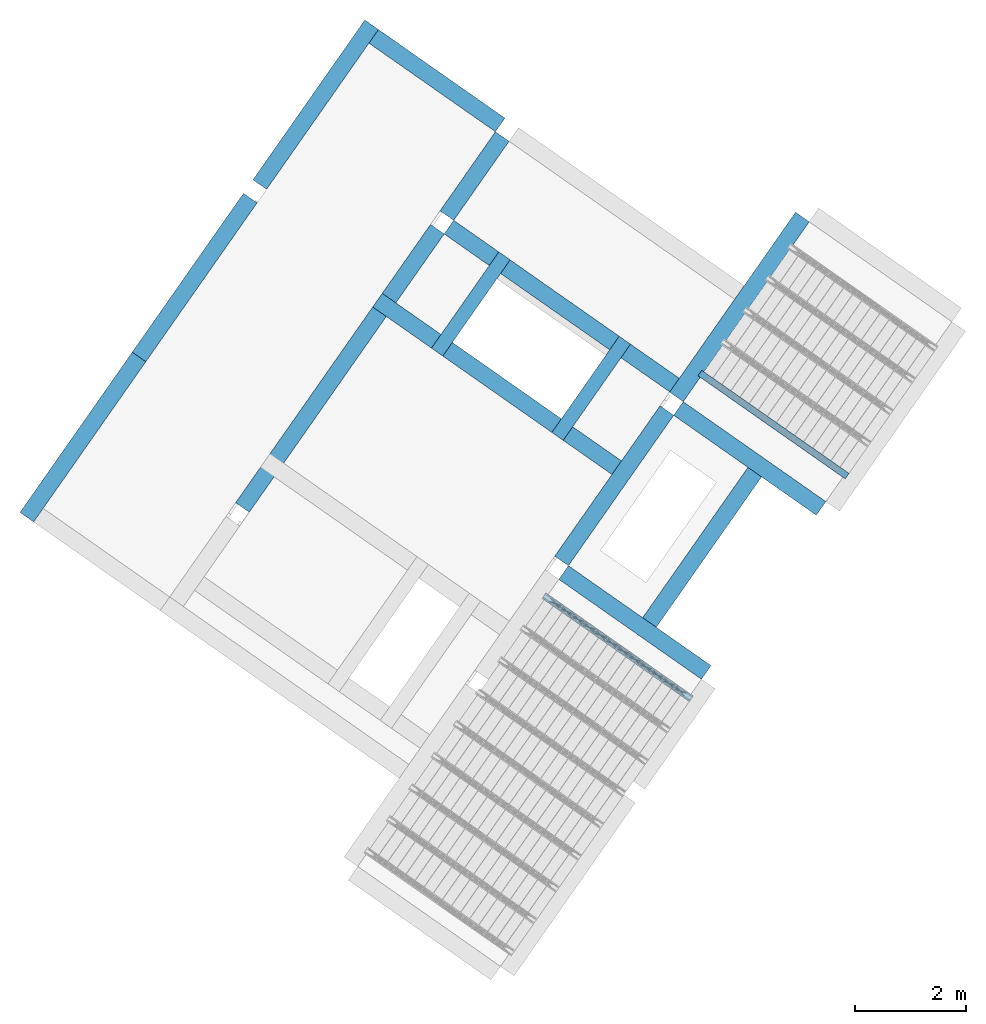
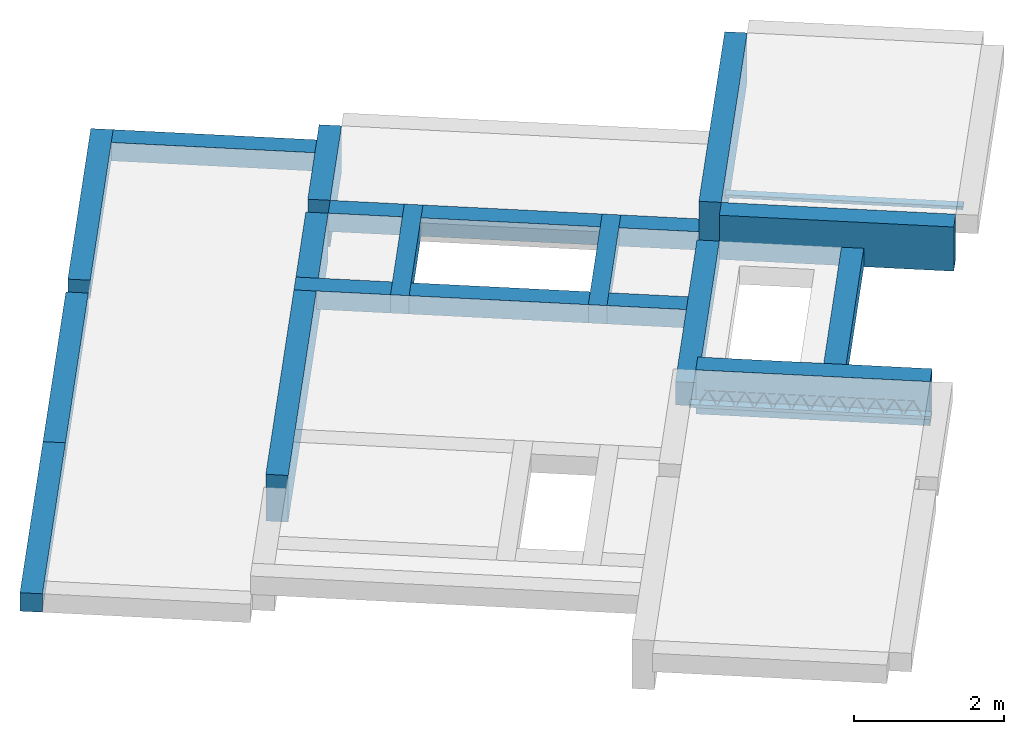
# One storey, part 18 of 46: 17 beams.
"""IFC2X3 building model written with IfcOpenShell, lengths in metres."""

from ifc_helpers import new_model, entity, si_unit, converted_unit, derived_unit, direction, frame, frame_2d, origin, origin_2d_with_axis, place, context, subcontext, project, spatial, rectangle, circle, extrude, material, type_object, element, save


model = new_model("IFC2X3")

# Units and contexts
model_context = context("Model", 3, precision=1e-05, world=origin(), true_north=direction((6.123031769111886e-17, 1.0)))
body_context = subcontext(model_context, "Body", "Model", "MODEL_VIEW")
ifc_project = project(units=[si_unit("LENGTHUNIT", "METRE"), si_unit("AREAUNIT", "SQUARE_METRE"), si_unit("VOLUMEUNIT", "CUBIC_METRE"), converted_unit("PLANEANGLEUNIT", "DEGREE", entity("IfcPlaneAngleMeasure", 0.017453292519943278), si_unit("PLANEANGLEUNIT", "RADIAN"), dimensions=[0, 0, 0, 0, 0, 0, 0]), si_unit("MASSUNIT", "GRAM", prefix="KILO"), derived_unit("MASSDENSITYUNIT", [(si_unit("MASSUNIT", "GRAM", prefix="KILO"), 1), (si_unit("LENGTHUNIT", "METRE"), -3)]), derived_unit("IONCONCENTRATIONUNIT", [(si_unit("MASSUNIT", "GRAM", prefix="KILO"), 1), (si_unit("LENGTHUNIT", "METRE"), -3)]), derived_unit("MOMENTOFINERTIAUNIT", [(si_unit("LENGTHUNIT", "METRE"), 4)]), si_unit("TIMEUNIT", "SECOND"), si_unit("FREQUENCYUNIT", "HERTZ"), si_unit("THERMODYNAMICTEMPERATUREUNIT", "DEGREE_CELSIUS"), derived_unit("THERMALTRANSMITTANCEUNIT", [(si_unit("MASSUNIT", "GRAM", prefix="KILO"), 1), (si_unit("THERMODYNAMICTEMPERATUREUNIT", "KELVIN"), -1), (si_unit("TIMEUNIT", "SECOND"), -3)]), derived_unit("THERMALCONDUCTANCEUNIT", [(si_unit("MASSUNIT", "GRAM", prefix="KILO"), 1), (si_unit("THERMODYNAMICTEMPERATUREUNIT", "KELVIN"), -1), (si_unit("TIMEUNIT", "SECOND"), -3), (si_unit("LENGTHUNIT", "METRE"), 1)]), derived_unit("VOLUMETRICFLOWRATEUNIT", [(si_unit("LENGTHUNIT", "METRE", prefix="DECI"), 3), (si_unit("TIMEUNIT", "SECOND"), -1)]), derived_unit("MASSFLOWRATEUNIT", [(si_unit("MASSUNIT", "GRAM", prefix="KILO"), 1), (si_unit("TIMEUNIT", "SECOND"), -1)]), derived_unit("ROTATIONALFREQUENCYUNIT", [(si_unit("TIMEUNIT", "SECOND"), -1)]), si_unit("ELECTRICCURRENTUNIT", "AMPERE"), si_unit("ELECTRICVOLTAGEUNIT", "VOLT"), si_unit("POWERUNIT", "WATT"), si_unit("FORCEUNIT", "NEWTON", prefix="KILO"), si_unit("ILLUMINANCEUNIT", "LUX"), si_unit("LUMINOUSFLUXUNIT", "LUMEN"), si_unit("LUMINOUSINTENSITYUNIT", "CANDELA"), si_unit("ENERGYUNIT", "JOULE"), derived_unit("USERDEFINED", [(si_unit("MASSUNIT", "GRAM", prefix="KILO"), -1), (si_unit("LENGTHUNIT", "METRE"), -2), (si_unit("TIMEUNIT", "SECOND"), 3), (si_unit("LUMINOUSFLUXUNIT", "LUMEN"), 1)]), derived_unit("USERDEFINED", [(si_unit("MASSUNIT", "GRAM", prefix="KILO"), 1), (si_unit("TIMEUNIT", "SECOND"), -3), (si_unit("LENGTHUNIT", "METRE"), 3), (si_unit("ELECTRICCURRENTUNIT", "AMPERE"), -2)]), derived_unit("SOUNDPOWERUNIT", [(si_unit("MASSUNIT", "GRAM", prefix="KILO"), 1), (si_unit("TIMEUNIT", "SECOND"), -3), (si_unit("LENGTHUNIT", "METRE"), 2)]), derived_unit("SOUNDPRESSUREUNIT", [(si_unit("MASSUNIT", "GRAM", prefix="KILO"), 1), (si_unit("LENGTHUNIT", "METRE"), -1), (si_unit("TIMEUNIT", "SECOND"), -2)]), derived_unit("LINEARVELOCITYUNIT", [(si_unit("LENGTHUNIT", "METRE"), 1), (si_unit("TIMEUNIT", "SECOND"), -1)]), si_unit("PRESSUREUNIT", "PASCAL"), derived_unit("USERDEFINED", [(si_unit("MASSUNIT", "GRAM", prefix="KILO"), 1), (si_unit("LENGTHUNIT", "METRE"), -2), (si_unit("TIMEUNIT", "SECOND"), -2)]), derived_unit("LINEARFORCEUNIT", [(si_unit("MASSUNIT", "GRAM", prefix="KILO"), 1), (si_unit("TIMEUNIT", "SECOND"), -2)]), derived_unit("PLANARFORCEUNIT", [(si_unit("MASSUNIT", "GRAM", prefix="KILO"), 1), (si_unit("LENGTHUNIT", "METRE"), -1), (si_unit("TIMEUNIT", "SECOND"), -2)]), derived_unit("SPECIFICHEATCAPACITYUNIT", [(si_unit("THERMODYNAMICTEMPERATUREUNIT", "KELVIN"), -1), (si_unit("LENGTHUNIT", "METRE"), 2), (si_unit("TIMEUNIT", "SECOND"), -2)]), derived_unit("HEATFLUXDENSITYUNIT", [(si_unit("MASSUNIT", "GRAM", prefix="KILO"), 1), (si_unit("TIMEUNIT", "SECOND"), -3)]), derived_unit("HEATINGVALUEUNIT", [(si_unit("LENGTHUNIT", "METRE"), 2), (si_unit("TIMEUNIT", "SECOND"), -2)]), derived_unit("VAPORPERMEABILITYUNIT", [(si_unit("LENGTHUNIT", "METRE"), -1), (si_unit("TIMEUNIT", "SECOND"), 1)]), derived_unit("DYNAMICVISCOSITYUNIT", [(si_unit("MASSUNIT", "GRAM", prefix="KILO"), 1), (si_unit("TIMEUNIT", "SECOND"), -1), (si_unit("LENGTHUNIT", "METRE"), -1)]), derived_unit("THERMALEXPANSIONCOEFFICIENTUNIT", [(si_unit("THERMODYNAMICTEMPERATUREUNIT", "KELVIN"), -1)]), derived_unit("MODULUSOFELASTICITYUNIT", [(si_unit("MASSUNIT", "GRAM", prefix="KILO"), 1), (si_unit("LENGTHUNIT", "METRE"), -1), (si_unit("TIMEUNIT", "SECOND"), -2)]), derived_unit("ISOTHERMALMOISTURECAPACITYUNIT", [(si_unit("MASSUNIT", "GRAM", prefix="KILO"), -1), (si_unit("LENGTHUNIT", "METRE"), 3)]), derived_unit("MOISTUREDIFFUSIVITYUNIT", [(si_unit("TIMEUNIT", "SECOND"), -1), (si_unit("LENGTHUNIT", "METRE"), 2)]), derived_unit("MASSPERLENGTHUNIT", [(si_unit("MASSUNIT", "GRAM", prefix="KILO"), 1), (si_unit("LENGTHUNIT", "METRE"), -1)]), derived_unit("THERMALRESISTANCEUNIT", [(si_unit("MASSUNIT", "GRAM", prefix="KILO"), -1), (si_unit("TIMEUNIT", "SECOND"), 3), (si_unit("THERMODYNAMICTEMPERATUREUNIT", "KELVIN"), 1)]), derived_unit("ACCELERATIONUNIT", [(si_unit("LENGTHUNIT", "METRE"), 1), (si_unit("TIMEUNIT", "SECOND"), -2)]), derived_unit("ANGULARVELOCITYUNIT", [(si_unit("TIMEUNIT", "SECOND"), -1), (si_unit("PLANEANGLEUNIT", "RADIAN"), 1)]), derived_unit("LINEARSTIFFNESSUNIT", [(si_unit("MASSUNIT", "GRAM", prefix="KILO"), 1), (si_unit("TIMEUNIT", "SECOND"), -2)]), derived_unit("WARPINGCONSTANTUNIT", [(si_unit("LENGTHUNIT", "METRE"), 6)]), derived_unit("LINEARMOMENTUNIT", [(si_unit("MASSUNIT", "GRAM", prefix="KILO"), 1), (si_unit("LENGTHUNIT", "METRE"), 1), (si_unit("TIMEUNIT", "SECOND"), -2)]), derived_unit("TORQUEUNIT", [(si_unit("MASSUNIT", "GRAM", prefix="KILO"), 1), (si_unit("LENGTHUNIT", "METRE"), 2), (si_unit("TIMEUNIT", "SECOND"), -2)])], contexts=[model_context])

# Site, building, storey
site_placement = place(None, origin())
site = spatial("IfcSite", under=ifc_project, at=site_placement, Name="Default", CompositionType="ELEMENT")
building_placement = place(site_placement, origin())
building = spatial("IfcBuilding", under=site, at=building_placement, CompositionType="ELEMENT")
storey_placement = place(building_placement, frame((0.0, 0.0, 99.52000000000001)))
storey = spatial("IfcBuildingStorey", under=building, at=storey_placement, Name="F1", CompositionType="ELEMENT", Elevation=99.52000000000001)

# Beams
beam_type = type_object("IfcBeamType", Name="Vigueta 9 (Paño 4) (Mf = 14.29)", PredefinedType="JOIST")
beam_1_placement = place(storey_placement, origin())
element("IfcBeam", 1, at=beam_1_placement, inside=storey, type_object=beam_type, Name="Vigueta 9 (Paño 4) (Mf = 14.29)", ObjectType="Mf = 14.29", context=body_context, shape_type="SweptSolid", body=[
    extrude(rectangle(XDim=3.2399999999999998, YDim=0.11999999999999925, at=frame_2d((-6.661338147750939e-16, 0.0), x_axis=(1.0, 0.0))), frame((8.99447357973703, -0.13274202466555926, 0.2000000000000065), z_axis=(0.0, 0.0, 1.0), x_axis=(0.8191520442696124, -0.5735764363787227, 0.0)), (0.0, 0.0, 1.0), 0.04999999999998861),
    extrude(circle(Radius=0.0025, at=origin_2d_with_axis()), frame((7.666458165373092, 0.7531964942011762, 0.22500000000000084), z_axis=(0.8191520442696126, -0.5735764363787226, 0.0), x_axis=(-0.5735764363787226, -0.8191520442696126, 0.0)), (0.0, 0.0, 1.0), 3.191999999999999),
    extrude(circle(Radius=0.0025, at=origin_2d_with_axis()), frame((7.82718191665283, 0.6846043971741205, 0.4500000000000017), z_axis=(0.8191520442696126, -0.5735764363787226, 0.0), x_axis=(-0.5735764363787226, -0.8191520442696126, 0.0)), (0.0, 0.0, 1.0), 2.849999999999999),
    extrude(circle(Radius=0.0025, at=origin_2d_with_axis()), frame((10.202552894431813, -1.0225961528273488, 0.22500000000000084), z_axis=(-0.3145304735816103, 0.389334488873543, 0.8657304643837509), x_axis=(-0.7778747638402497, -0.6284193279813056, 0.0)), (0.0, 0.0, 1.0), 0.2598961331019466),
    extrude(circle(Radius=0.0025, at=origin_2d_with_axis()), frame((9.997764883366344, -0.8792020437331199, 0.22499999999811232), z_axis=(0.47343050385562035, -0.1624017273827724, 0.8657304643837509), x_axis=(-0.3244721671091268, -0.9458952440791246, 0.0)), (0.0, 0.0, 1.0), 0.25989613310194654),
    extrude(circle(Radius=0.0025, at=origin_2d_with_axis()), frame((9.99776488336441, -0.8792020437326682, 0.22500000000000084), z_axis=(-0.3145304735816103, 0.389334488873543, 0.8657304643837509), x_axis=(-0.7778747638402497, -0.6284193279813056, 0.0)), (0.0, 0.0, 1.0), 0.2598961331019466),
    extrude(circle(Radius=0.0025, at=origin_2d_with_axis()), frame((9.792976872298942, -0.7358079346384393, 0.22499999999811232), z_axis=(0.47343050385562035, -0.1624017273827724, 0.8657304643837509), x_axis=(-0.3244721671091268, -0.9458952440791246, 0.0)), (0.0, 0.0, 1.0), 0.25989613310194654),
    extrude(circle(Radius=0.0025, at=origin_2d_with_axis()), frame((9.792976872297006, -0.7358079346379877, 0.22500000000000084), z_axis=(-0.3145304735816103, 0.389334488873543, 0.8657304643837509), x_axis=(-0.7778747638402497, -0.6284193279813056, 0.0)), (0.0, 0.0, 1.0), 0.2598961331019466),
    extrude(circle(Radius=0.0025, at=origin_2d_with_axis()), frame((9.588188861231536, -0.5924138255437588, 0.22499999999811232), z_axis=(0.47343050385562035, -0.1624017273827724, 0.8657304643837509), x_axis=(-0.3244721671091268, -0.9458952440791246, 0.0)), (0.0, 0.0, 1.0), 0.25989613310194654),
    extrude(circle(Radius=0.0025, at=origin_2d_with_axis()), frame((9.588188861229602, -0.592413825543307, 0.22500000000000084), z_axis=(-0.3145304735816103, 0.389334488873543, 0.8657304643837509), x_axis=(-0.7778747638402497, -0.6284193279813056, 0.0)), (0.0, 0.0, 1.0), 0.2598961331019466),
    extrude(circle(Radius=0.0025, at=origin_2d_with_axis()), frame((9.383400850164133, -0.4490197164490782, 0.22499999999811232), z_axis=(0.47343050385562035, -0.1624017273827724, 0.8657304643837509), x_axis=(-0.3244721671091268, -0.9458952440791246, 0.0)), (0.0, 0.0, 1.0), 0.25989613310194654),
    extrude(circle(Radius=0.0025, at=origin_2d_with_axis()), frame((9.3834008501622, -0.4490197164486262, 0.22500000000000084), z_axis=(-0.3145304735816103, 0.389334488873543, 0.8657304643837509), x_axis=(-0.7778747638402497, -0.6284193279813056, 0.0)), (0.0, 0.0, 1.0), 0.2598961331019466),
    extrude(circle(Radius=0.0025, at=origin_2d_with_axis()), frame((9.178612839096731, -0.3056256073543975, 0.22499999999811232), z_axis=(0.47343050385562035, -0.1624017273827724, 0.8657304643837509), x_axis=(-0.3244721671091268, -0.9458952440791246, 0.0)), (0.0, 0.0, 1.0), 0.25989613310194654),
    extrude(circle(Radius=0.0025, at=origin_2d_with_axis()), frame((9.178612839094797, -0.3056256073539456, 0.22500000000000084), z_axis=(-0.3145304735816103, 0.389334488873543, 0.8657304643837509), x_axis=(-0.7778747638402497, -0.6284193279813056, 0.0)), (0.0, 0.0, 1.0), 0.2598961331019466),
    extrude(circle(Radius=0.0025, at=origin_2d_with_axis()), frame((8.973824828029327, -0.16223149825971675, 0.22499999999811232), z_axis=(0.47343050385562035, -0.1624017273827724, 0.8657304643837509), x_axis=(-0.3244721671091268, -0.9458952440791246, 0.0)), (0.0, 0.0, 1.0), 0.25989613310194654),
    extrude(circle(Radius=0.0025, at=origin_2d_with_axis()), frame((8.973824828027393, -0.16223149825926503, 0.22500000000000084), z_axis=(-0.3145304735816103, 0.389334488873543, 0.8657304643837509), x_axis=(-0.7778747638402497, -0.6284193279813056, 0.0)), (0.0, 0.0, 1.0), 0.2598961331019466),
    extrude(circle(Radius=0.0025, at=origin_2d_with_axis()), frame((8.769036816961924, -0.018837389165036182, 0.22499999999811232), z_axis=(0.47343050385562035, -0.1624017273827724, 0.8657304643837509), x_axis=(-0.3244721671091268, -0.9458952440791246, 0.0)), (0.0, 0.0, 1.0), 0.25989613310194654),
    extrude(circle(Radius=0.0025, at=origin_2d_with_axis()), frame((8.76903681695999, -0.01883738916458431, 0.22500000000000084), z_axis=(-0.3145304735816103, 0.389334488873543, 0.8657304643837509), x_axis=(-0.7778747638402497, -0.6284193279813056, 0.0)), (0.0, 0.0, 1.0), 0.2598961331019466),
    extrude(circle(Radius=0.0025, at=origin_2d_with_axis()), frame((8.56424880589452, 0.12455671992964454, 0.22499999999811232), z_axis=(0.47343050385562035, -0.1624017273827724, 0.8657304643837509), x_axis=(-0.3244721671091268, -0.9458952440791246, 0.0)), (0.0, 0.0, 1.0), 0.25989613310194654),
    extrude(circle(Radius=0.0025, at=origin_2d_with_axis()), frame((8.564248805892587, 0.12455671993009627, 0.22500000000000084), z_axis=(-0.3145304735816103, 0.389334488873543, 0.8657304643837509), x_axis=(-0.7778747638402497, -0.6284193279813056, 0.0)), (0.0, 0.0, 1.0), 0.2598961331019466),
    extrude(circle(Radius=0.0025, at=origin_2d_with_axis()), frame((8.359460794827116, 0.2679508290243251, 0.22499999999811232), z_axis=(0.47343050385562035, -0.1624017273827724, 0.8657304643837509), x_axis=(-0.3244721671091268, -0.9458952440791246, 0.0)), (0.0, 0.0, 1.0), 0.25989613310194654),
    extrude(circle(Radius=0.0025, at=origin_2d_with_axis()), frame((8.359460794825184, 0.26795082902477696, 0.22500000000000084), z_axis=(-0.3145304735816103, 0.389334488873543, 0.8657304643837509), x_axis=(-0.7778747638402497, -0.6284193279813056, 0.0)), (0.0, 0.0, 1.0), 0.2598961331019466),
    extrude(circle(Radius=0.0025, at=origin_2d_with_axis()), frame((8.154672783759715, 0.4113449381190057, 0.22499999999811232), z_axis=(0.47343050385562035, -0.1624017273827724, 0.8657304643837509), x_axis=(-0.3244721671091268, -0.9458952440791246, 0.0)), (0.0, 0.0, 1.0), 0.25989613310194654),
    extrude(circle(Radius=0.0025, at=origin_2d_with_axis()), frame((8.15467278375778, 0.41134493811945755, 0.22500000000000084), z_axis=(-0.3145304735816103, 0.389334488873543, 0.8657304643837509), x_axis=(-0.7778747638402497, -0.6284193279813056, 0.0)), (0.0, 0.0, 1.0), 0.2598961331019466),
    extrude(circle(Radius=0.0025, at=origin_2d_with_axis()), frame((7.949884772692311, 0.5547390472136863, 0.22499999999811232), z_axis=(0.47343050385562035, -0.1624017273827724, 0.8657304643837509), x_axis=(-0.3244721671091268, -0.9458952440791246, 0.0)), (0.0, 0.0, 1.0), 0.25989613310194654),
    extrude(circle(Radius=0.0025, at=origin_2d_with_axis()), frame((7.949884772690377, 0.5547390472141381, 0.22500000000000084), z_axis=(-0.3145304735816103, 0.389334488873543, 0.8657304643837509), x_axis=(-0.7778747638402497, -0.6284193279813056, 0.0)), (0.0, 0.0, 1.0), 0.2598961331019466),
    extrude(circle(Radius=0.0025, at=origin_2d_with_axis()), frame((7.745096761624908, 0.6981331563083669, 0.22499999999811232), z_axis=(0.47343050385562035, -0.1624017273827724, 0.8657304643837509), x_axis=(-0.3244721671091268, -0.9458952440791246, 0.0)), (0.0, 0.0, 1.0), 0.25989613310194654),
    extrude(circle(Radius=0.0025, at=origin_2d_with_axis()), frame((7.707755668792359, 0.8121754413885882, 0.22500000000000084), z_axis=(0.8191520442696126, -0.5735764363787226, 0.0), x_axis=(-0.5735764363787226, -0.8191520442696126, 0.0)), (0.0, 0.0, 1.0), 3.191999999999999),
    extrude(circle(Radius=0.0025, at=origin_2d_with_axis()), frame((10.24385039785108, -0.9636172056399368, 0.22500000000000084), z_axis=(-0.47343050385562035, 0.1624017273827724, 0.8657304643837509), x_axis=(-0.3244721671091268, -0.9458952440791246, 0.0)), (0.0, 0.0, 1.0), 0.25989613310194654),
    extrude(circle(Radius=0.0025, at=origin_2d_with_axis()), frame((10.039062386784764, -0.8202230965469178, 0.22499999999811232), z_axis=(0.3145304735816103, -0.389334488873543, 0.8657304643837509), x_axis=(-0.7778747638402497, -0.6284193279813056, 0.0)), (0.0, 0.0, 1.0), 0.2598961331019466),
    extrude(circle(Radius=0.0025, at=origin_2d_with_axis()), frame((10.039062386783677, -0.8202230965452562, 0.22500000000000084), z_axis=(-0.47343050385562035, 0.1624017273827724, 0.8657304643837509), x_axis=(-0.3244721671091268, -0.9458952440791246, 0.0)), (0.0, 0.0, 1.0), 0.25989613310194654),
    extrude(circle(Radius=0.0025, at=origin_2d_with_axis()), frame((9.834274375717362, -0.6768289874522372, 0.22499999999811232), z_axis=(0.3145304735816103, -0.389334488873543, 0.8657304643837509), x_axis=(-0.7778747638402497, -0.6284193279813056, 0.0)), (0.0, 0.0, 1.0), 0.2598961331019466),
    extrude(circle(Radius=0.0025, at=origin_2d_with_axis()), frame((9.834274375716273, -0.6768289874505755, 0.22500000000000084), z_axis=(-0.47343050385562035, 0.1624017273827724, 0.8657304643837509), x_axis=(-0.3244721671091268, -0.9458952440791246, 0.0)), (0.0, 0.0, 1.0), 0.25989613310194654),
    extrude(circle(Radius=0.0025, at=origin_2d_with_axis()), frame((9.629486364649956, -0.5334348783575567, 0.22499999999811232), z_axis=(0.3145304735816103, -0.389334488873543, 0.8657304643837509), x_axis=(-0.7778747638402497, -0.6284193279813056, 0.0)), (0.0, 0.0, 1.0), 0.2598961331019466),
    extrude(circle(Radius=0.0025, at=origin_2d_with_axis()), frame((9.62948636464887, -0.5334348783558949, 0.22500000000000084), z_axis=(-0.47343050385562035, 0.1624017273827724, 0.8657304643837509), x_axis=(-0.3244721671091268, -0.9458952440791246, 0.0)), (0.0, 0.0, 1.0), 0.25989613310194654),
    extrude(circle(Radius=0.0025, at=origin_2d_with_axis()), frame((9.424698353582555, -0.390040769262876, 0.22499999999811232), z_axis=(0.3145304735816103, -0.389334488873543, 0.8657304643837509), x_axis=(-0.7778747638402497, -0.6284193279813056, 0.0)), (0.0, 0.0, 1.0), 0.2598961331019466),
    extrude(circle(Radius=0.0025, at=origin_2d_with_axis()), frame((9.424698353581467, -0.3900407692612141, 0.22500000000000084), z_axis=(-0.47343050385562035, 0.1624017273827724, 0.8657304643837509), x_axis=(-0.3244721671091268, -0.9458952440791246, 0.0)), (0.0, 0.0, 1.0), 0.25989613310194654),
    extrude(circle(Radius=0.0025, at=origin_2d_with_axis()), frame((9.219910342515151, -0.24664666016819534, 0.22499999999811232), z_axis=(0.3145304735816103, -0.389334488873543, 0.8657304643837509), x_axis=(-0.7778747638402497, -0.6284193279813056, 0.0)), (0.0, 0.0, 1.0), 0.2598961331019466),
    extrude(circle(Radius=0.0025, at=origin_2d_with_axis()), frame((9.219910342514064, -0.24664666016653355, 0.22500000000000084), z_axis=(-0.47343050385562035, 0.1624017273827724, 0.8657304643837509), x_axis=(-0.3244721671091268, -0.9458952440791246, 0.0)), (0.0, 0.0, 1.0), 0.25989613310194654),
    extrude(circle(Radius=0.0025, at=origin_2d_with_axis()), frame((9.015122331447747, -0.10325255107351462, 0.22499999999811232), z_axis=(0.3145304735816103, -0.389334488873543, 0.8657304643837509), x_axis=(-0.7778747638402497, -0.6284193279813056, 0.0)), (0.0, 0.0, 1.0), 0.2598961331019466),
    extrude(circle(Radius=0.0025, at=origin_2d_with_axis()), frame((9.015122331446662, -0.10325255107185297, 0.22500000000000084), z_axis=(-0.47343050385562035, 0.1624017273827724, 0.8657304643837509), x_axis=(-0.3244721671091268, -0.9458952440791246, 0.0)), (0.0, 0.0, 1.0), 0.25989613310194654),
    extrude(circle(Radius=0.0025, at=origin_2d_with_axis()), frame((8.810334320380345, 0.04014155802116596, 0.22499999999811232), z_axis=(0.3145304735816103, -0.389334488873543, 0.8657304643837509), x_axis=(-0.7778747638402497, -0.6284193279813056, 0.0)), (0.0, 0.0, 1.0), 0.2598961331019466),
    extrude(circle(Radius=0.0025, at=origin_2d_with_axis()), frame((8.810334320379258, 0.040141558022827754, 0.22500000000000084), z_axis=(-0.47343050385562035, 0.1624017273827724, 0.8657304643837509), x_axis=(-0.3244721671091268, -0.9458952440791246, 0.0)), (0.0, 0.0, 1.0), 0.25989613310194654),
    extrude(circle(Radius=0.0025, at=origin_2d_with_axis()), frame((8.605546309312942, 0.18353566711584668, 0.22499999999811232), z_axis=(0.3145304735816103, -0.389334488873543, 0.8657304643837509), x_axis=(-0.7778747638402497, -0.6284193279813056, 0.0)), (0.0, 0.0, 1.0), 0.2598961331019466),
    extrude(circle(Radius=0.0025, at=origin_2d_with_axis()), frame((8.605546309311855, 0.18353566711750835, 0.22500000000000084), z_axis=(-0.47343050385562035, 0.1624017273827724, 0.8657304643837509), x_axis=(-0.3244721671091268, -0.9458952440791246, 0.0)), (0.0, 0.0, 1.0), 0.25989613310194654),
    extrude(circle(Radius=0.0025, at=origin_2d_with_axis()), frame((8.400758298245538, 0.32692977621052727, 0.22499999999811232), z_axis=(0.3145304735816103, -0.389334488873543, 0.8657304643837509), x_axis=(-0.7778747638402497, -0.6284193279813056, 0.0)), (0.0, 0.0, 1.0), 0.2598961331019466),
    extrude(circle(Radius=0.0025, at=origin_2d_with_axis()), frame((8.400758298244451, 0.32692977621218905, 0.22500000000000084), z_axis=(-0.47343050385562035, 0.1624017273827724, 0.8657304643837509), x_axis=(-0.3244721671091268, -0.9458952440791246, 0.0)), (0.0, 0.0, 1.0), 0.25989613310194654),
    extrude(circle(Radius=0.0025, at=origin_2d_with_axis()), frame((8.195970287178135, 0.47032388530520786, 0.22499999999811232), z_axis=(0.3145304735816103, -0.389334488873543, 0.8657304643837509), x_axis=(-0.7778747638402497, -0.6284193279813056, 0.0)), (0.0, 0.0, 1.0), 0.2598961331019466),
    extrude(circle(Radius=0.0025, at=origin_2d_with_axis()), frame((8.195970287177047, 0.47032388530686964, 0.22500000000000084), z_axis=(-0.47343050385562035, 0.1624017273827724, 0.8657304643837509), x_axis=(-0.3244721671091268, -0.9458952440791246, 0.0)), (0.0, 0.0, 1.0), 0.25989613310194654),
    extrude(circle(Radius=0.0025, at=origin_2d_with_axis()), frame((7.991182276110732, 0.6137179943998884, 0.22499999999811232), z_axis=(0.3145304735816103, -0.389334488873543, 0.8657304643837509), x_axis=(-0.7778747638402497, -0.6284193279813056, 0.0)), (0.0, 0.0, 1.0), 0.2598961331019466),
    extrude(circle(Radius=0.0025, at=origin_2d_with_axis()), frame((7.991182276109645, 0.6137179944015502, 0.22500000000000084), z_axis=(-0.47343050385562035, 0.1624017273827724, 0.8657304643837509), x_axis=(-0.3244721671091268, -0.9458952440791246, 0.0)), (0.0, 0.0, 1.0), 0.25989613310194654),
    extrude(circle(Radius=0.0025, at=origin_2d_with_axis()), frame((7.786394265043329, 0.757112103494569, 0.22499999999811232), z_axis=(0.3145304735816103, -0.389334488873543, 0.8657304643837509), x_axis=(-0.7778747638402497, -0.6284193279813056, 0.0)), (0.0, 0.0, 1.0), 0.2598961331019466),
])
ifc_material = material(Name="Hormigón armado")
beam_2_placement = place(storey_placement, origin())
element("IfcBeam", 2, at=beam_2_placement, inside=storey, material=ifc_material, Name="238196", context=body_context, shape_type="SweptSolid", body=[
    extrude(rectangle(XDim=0.04999999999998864, YDim=0.12000000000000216, at=origin_2d_with_axis()), frame((10.477971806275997, 4.810296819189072, 0.22500000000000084), z_axis=(0.8191520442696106, -0.5735764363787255, 0.0), x_axis=(0.0, 0.0, -1.0)), (0.0, 0.0, 1.0), 3.2399999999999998),
])
beam_3_placement = place(storey_placement, origin())
element("IfcBeam", 3, at=beam_3_placement, inside=storey, material=ifc_material, Name="Viga 4 (30x80)", ObjectType="30x80", context=body_context, shape_type="SweptSolid", body=[
    extrude(rectangle(XDim=0.7999999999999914, YDim=0.29999999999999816, at=frame_2d((0.0, 1.5265566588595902e-16), x_axis=(1.0, 0.0))), frame((10.054204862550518, 4.379439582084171, 0.10000000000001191), z_axis=(0.573576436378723, 0.8191520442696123, 0.0), x_axis=(0.0, 0.0, 1.0)), (0.0, 0.0, 1.0), 3.96),
])
beam_4_placement = place(storey_placement, origin())
element("IfcBeam", 4, at=beam_4_placement, inside=storey, material=ifc_material, Name="Viga 5 (30x38)", ObjectType="30x38", context=body_context, shape_type="SweptSolid", body=[
    extrude(rectangle(XDim=0.3799999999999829, YDim=0.29999999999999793, at=frame_2d((0.0, 6.938893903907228e-17), x_axis=(1.0, 0.0))), frame((7.983593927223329, 1.4223007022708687, -0.10999999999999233), z_axis=(0.5735764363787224, 0.8191520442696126, 0.0), x_axis=(0.0, 0.0, 1.0)), (0.0, 0.0, 1.0), 3.31),
])
beam_5_placement = place(storey_placement, origin())
element("IfcBeam", 5, at=beam_5_placement, inside=storey, material=ifc_material, Name="Viga 8 (30x76)", ObjectType="30x76", context=body_context, shape_type="SweptSolid", body=[
    extrude(rectangle(XDim=0.7600000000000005, YDim=0.30000000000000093, at=frame_2d((0.0, 2.914335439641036e-16), x_axis=(1.0, 0.0))), frame((5.915838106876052, 7.64945265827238, -0.3800000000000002), z_axis=(0.5735764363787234, 0.8191520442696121, 0.0), x_axis=(0.0, 0.0, 1.0)), (0.0, 0.0, 1.0), 1.7400317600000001),
])
beam_6_placement = place(storey_placement, origin())
element("IfcBeam", 6, at=beam_6_placement, inside=storey, material=ifc_material, Name="Viga 9 (30x76)", ObjectType="30x76", context=body_context, shape_type="SweptSolid", body=[
    extrude(rectangle(XDim=0.7600000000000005, YDim=0.3000000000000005, at=frame_2d((0.0, -1.8041124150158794e-16), x_axis=(1.0, 0.0))), frame((2.2306095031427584, 2.386400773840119, -0.3800000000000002), z_axis=(0.573576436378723, 0.8191520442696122, 0.0), x_axis=(0.0, 0.0, 1.0)), (0.0, 0.0, 1.0), 6.125),
])
beam_7_placement = place(storey_placement, origin())
element("IfcBeam", 7, at=beam_7_placement, inside=storey, material=ifc_material, Name="Viga 15 (30x30)", ObjectType="30x30", context=body_context, shape_type="SweptSolid", body=[
    extrude(rectangle(XDim=0.3000000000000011, YDim=0.3000000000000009, at=frame_2d((0.0, -1.1934897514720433e-15), x_axis=(1.0, 0.0))), frame((4.59615625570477, 10.880806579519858, -0.61), z_axis=(0.8191520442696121, -0.5735764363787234, 0.0), x_axis=(0.0, 0.0, 1.0)), (0.0, 0.0, 1.0), 2.7844485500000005),
])
beam_8_placement = place(storey_placement, origin())
element("IfcBeam", 8, at=beam_8_placement, inside=storey, material=ifc_material, Name="Viga 17 (30x30)", ObjectType="30x30", context=body_context, shape_type="SweptSolid", body=[
    extrude(rectangle(XDim=0.3000000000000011, YDim=0.30000000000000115, at=frame_2d((0.0, -4.0245584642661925e-16), x_axis=(1.0, 0.0))), frame((2.5426877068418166, 8.209352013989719, -0.61), z_axis=(0.5735764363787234, 0.8191520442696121, 0.0), x_axis=(0.0, 0.0, 1.0)), (0.0, 0.0, 1.0), 3.516148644),
])
beam_9_placement = place(storey_placement, origin())
element("IfcBeam", 9, at=beam_9_placement, inside=storey, material=ifc_material, Name="Viga 18 (30x30)", ObjectType="30x30", context=body_context, shape_type="SweptSolid", body=[
    extrude(rectangle(XDim=0.3000000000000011, YDim=0.29999999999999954, at=frame_2d((0.0, 2.7755575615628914e-17), x_axis=(1.0, 0.0))), frame((0.36519017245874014, 5.0998983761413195, -0.61), z_axis=(0.5735764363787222, 0.8191520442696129, 0.0), x_axis=(0.0, 0.0, 1.0)), (0.0, 0.0, 1.0), 3.496076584),
])
beam_10_placement = place(storey_placement, origin())
element("IfcBeam", 10, at=beam_10_placement, inside=storey, material=ifc_material, Name="Viga 19 (30x30)", ObjectType="30x30", context=body_context, shape_type="SweptSolid", body=[
    extrude(rectangle(XDim=0.3000000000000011, YDim=0.2999999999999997, at=frame_2d((0.0, -1.942890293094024e-16), x_axis=(1.0, 0.0))), frame((-1.6579271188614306, 2.210868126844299, -0.61), z_axis=(0.5735764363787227, 0.8191520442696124, 0.0), x_axis=(0.0, 0.0, 1.0)), (0.0, 0.0, 1.0), 3.8269674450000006),
])
beam_11_placement = place(storey_placement, origin())
element("IfcBeam", 11, at=beam_11_placement, inside=storey, material=ifc_material, Name="Viga 20 (30x30)", ObjectType="30x30", context=body_context, shape_type="SweptSolid", body=[
    extrude(rectangle(XDim=0.3000000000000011, YDim=0.29999999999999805, at=frame_2d((0.0, 1.3877787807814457e-17), x_axis=(1.0, 0.0))), frame((9.396580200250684, 0.06668468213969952, -0.07000000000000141), z_axis=(0.5735764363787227, 0.8191520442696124, 0.0), x_axis=(0.0, 0.0, 1.0)), (0.0, 0.0, 1.0), 3.9100000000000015),
])
beam_12_placement = place(storey_placement, origin())
element("IfcBeam", 12, at=beam_12_placement, inside=storey, material=ifc_material, Name="Viga 21 (30x72)", ObjectType="30x72", context=body_context, shape_type="SweptSolid", body=[
    extrude(rectangle(XDim=0.7200000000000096, YDim=0.3000000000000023, at=frame_2d((0.0, -8.881784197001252e-16), x_axis=(1.0, 0.0))), frame((10.091041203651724, 4.170530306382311, 0.14000000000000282), z_axis=(0.8191520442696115, -0.5735764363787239, 0.0), x_axis=(0.0, 0.0, 1.0)), (0.0, 0.0, 1.0), 3.1400000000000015),
])
beam_13_placement = place(storey_placement, origin())
element("IfcBeam", 13, at=beam_13_placement, inside=storey, material=ifc_material, Name="Viga 22 (30x72)", ObjectType="30x72", context=body_context, shape_type="SweptSolid", body=[
    extrude(rectangle(XDim=0.7200000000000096, YDim=0.30000000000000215, at=frame_2d((0.0, 3.3306690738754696e-16), x_axis=(1.0, 0.0))), frame((8.020430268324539, 1.2133914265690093, 0.14000000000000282), z_axis=(0.8191520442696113, -0.5735764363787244, 0.0), x_axis=(0.0, 0.0, 1.0)), (0.0, 0.0, 1.0), 3.140000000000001),
])
beam_14_placement = place(storey_placement, origin())
element("IfcBeam", 14, at=beam_14_placement, inside=storey, material=ifc_material, Name="Viga 27 (25x30)", ObjectType="25x30", context=body_context, shape_type="SweptSolid", body=[
    extrude(rectangle(XDim=0.3000000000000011, YDim=0.2500000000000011, at=origin_2d_with_axis()), frame((5.739775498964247, 5.187781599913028, -0.15000000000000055), z_axis=(0.573576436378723, 0.8191520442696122, 0.0), x_axis=(0.0, 0.0, 1.0)), (0.0, 0.0, 1.0), 2.1174682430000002),
])
beam_15_placement = place(storey_placement, origin())
element("IfcBeam", 15, at=beam_15_placement, inside=storey, material=ifc_material, Name="Viga 28 (25x30)", ObjectType="25x30", context=body_context, shape_type="SweptSolid", body=[
    extrude(rectangle(XDim=0.3000000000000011, YDim=0.24999999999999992, at=frame_2d((0.0, 0.0), x_axis=(0.0, 1.0))), frame((7.910528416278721, 3.6678040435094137, -0.15000000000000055), z_axis=(0.5735764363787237, 0.8191520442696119, 0.0), x_axis=(-0.8191520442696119, 0.5735764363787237, 0.0)), (0.0, 0.0, 1.0), 2.117468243),
])
beam_16_placement = place(storey_placement, origin())
element("IfcBeam", 16, at=beam_16_placement, inside=storey, material=ifc_material, Name="Viga 29 (30x30)", ObjectType="30x30", context=body_context, shape_type="SweptSolid", body=[
    extrude(rectangle(XDim=0.3000000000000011, YDim=0.2999999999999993, at=frame_2d((0.0, 0.0), x_axis=(0.0, 1.0))), frame((5.952674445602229, 7.4405433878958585, -0.15000000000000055), z_axis=(0.8191520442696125, -0.5735764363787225, 0.0), x_axis=(0.5735764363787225, 0.8191520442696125, 0.0)), (0.0, 0.0, 1.0), 5.265554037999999),
])
beam_17_placement = place(storey_placement, origin())
element("IfcBeam", 17, at=beam_17_placement, inside=storey, material=ifc_material, Name="Viga 31 (30x30)", ObjectType="30x30", context=body_context, shape_type="SweptSolid", body=[
    extrude(rectangle(XDim=0.3000000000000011, YDim=0.2999999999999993, at=frame_2d((0.0, -4.440892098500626e-16), x_axis=(1.0, 0.0))), frame((4.664471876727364, 6.123833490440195, -0.15000000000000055), z_axis=(0.8191520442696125, -0.5735764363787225, 0.0), x_axis=(0.0, 0.0, 1.0)), (0.0, 0.0, 1.0), 5.565554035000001),
])

save(model, "model.ifc")
